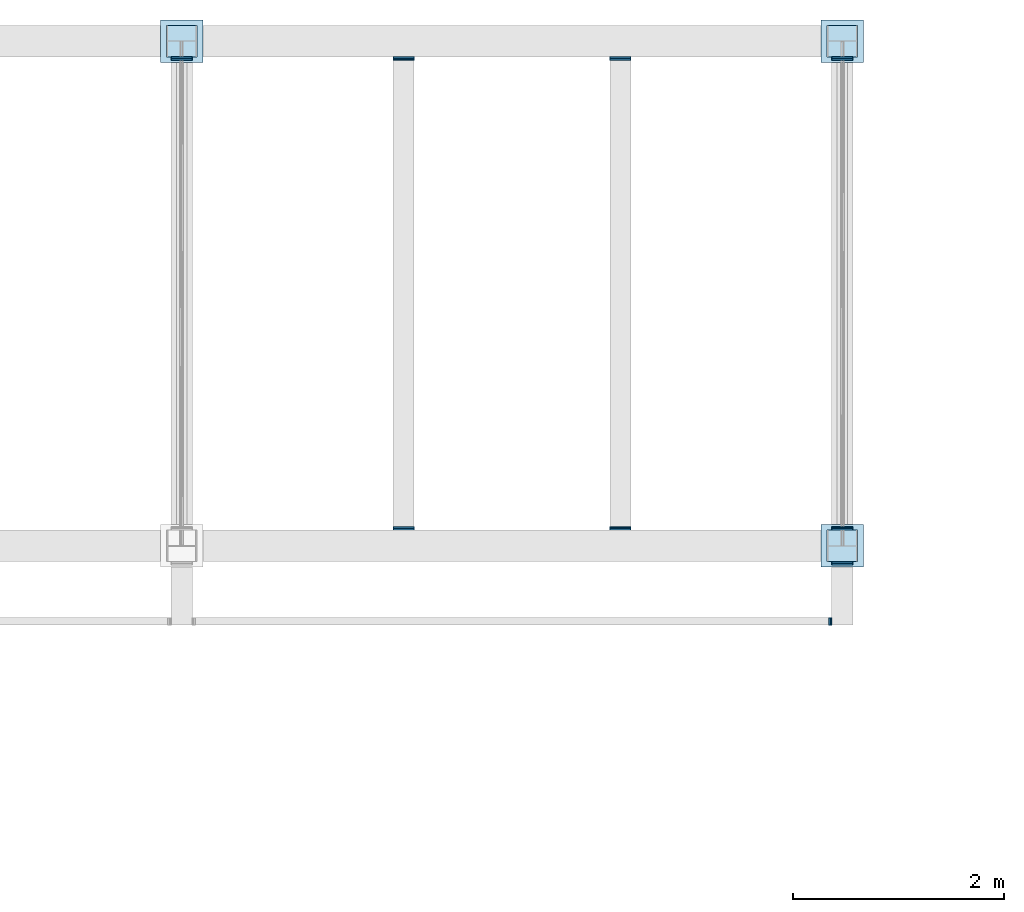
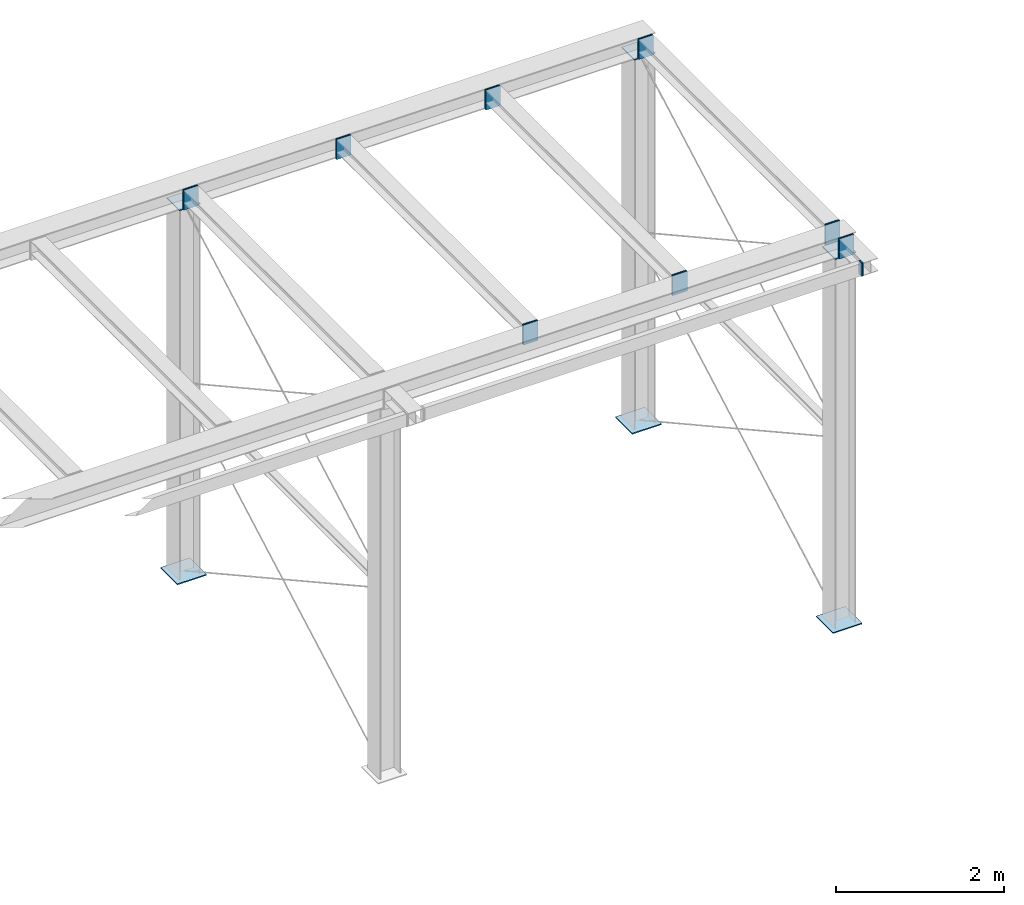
# One storey, part 21 of 24: 24 plates.
"""IFC2X3 building model written with IfcOpenShell, lengths in metres."""

from ifc_helpers import new_model, entity, si_unit, converted_unit, derived_unit, frame, origin, place, context, subcontext, project, spatial, faceted_brep, material, element, save


model = new_model("IFC2X3")

# Units and contexts
model_context = context("Model", 3, precision=1e-05, world=origin())
body_context = subcontext(model_context, "Body", "Model", "MODEL_VIEW")
ifc_project = project(units=[si_unit("LENGTHUNIT", "METRE"), si_unit("AREAUNIT", "SQUARE_METRE"), si_unit("VOLUMEUNIT", "CUBIC_METRE"), si_unit("MASSUNIT", "GRAM", prefix="KILO"), converted_unit("PLANEANGLEUNIT", "DEGREE", entity("IfcPlaneAngleMeasure", 0.0174532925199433), si_unit("PLANEANGLEUNIT", "RADIAN"), dimensions=[0, 0, 0, 0, 0, 0, 0]), derived_unit("THERMALTRANSMITTANCEUNIT", [(si_unit("POWERUNIT", "WATT"), 1), (si_unit("THERMODYNAMICTEMPERATUREUNIT", "KELVIN"), -1), (si_unit("LENGTHUNIT", "METRE"), -2)]), derived_unit("VOLUMETRICFLOWRATEUNIT", [(si_unit("LENGTHUNIT", "METRE"), 3), (converted_unit("TIMEUNIT", "hour", entity("IfcTimeMeasure", 3600.0), si_unit("TIMEUNIT", "SECOND"), dimensions=[0, 0, 1, 0, 0, 0, 0]), -1), (si_unit("LENGTHUNIT", "METRE"), -1)])], contexts=[model_context])

# Site, building, storey
site_placement = place(None, origin())
site = spatial("IfcSite", under=ifc_project, at=site_placement, Name="TWP_Speiseverteilzentrum SBW VZ II", CompositionType="ELEMENT")
building_placement = place(site_placement, origin())
building = spatial("IfcBuilding", under=site, at=building_placement, Name="Speiseverteilzentrum SBW VZ II", CompositionType="ELEMENT")
storey_placement = place(building_placement, frame((0.0, 0.0, 0.6957)))
storey = spatial("IfcBuildingStorey", under=building, at=storey_placement, Name="EG_Technik_FFB", CompositionType="ELEMENT", Elevation=0.6957)

# Plates
ifc_material_1 = material(Name="S235")
plate_1_placement = place(storey_placement, frame((109.8, 92.0499999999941, 0.649699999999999)))
element("IfcPlate", 1, at=plate_1_placement, inside=storey, material=ifc_material_1, Name="Fußplatte", ObjectType="PLATE", context=body_context, shape_type="Brep", body=[
    faceted_brep([(0.0, 0.4, 0.0), (0.0, 0.4, 0.015), (0.4, 0.4, 0.015), (0.4, 0.4, 0.0), (0.0, 0.0, 0.0), (0.0, 0.0, 0.015), (0.4, 0.0, 0.0), (0.4, 0.0, 0.015)], [[[0, 1, 2, 3]], [[0, 4, 5, 1]], [[4, 6, 7, 5]], [[6, 3, 2, 7]], [[6, 4, 0, 3]], [[2, 1, 5, 7]]], orient=[[False], [False], [False], [False], [False], [False]]),
])
ifc_material_2 = material(Name="S235")
plate_2_placement = place(storey_placement, frame((109.8, 87.2749999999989, 0.649699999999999)))
element("IfcPlate", 2, at=plate_2_placement, inside=storey, material=ifc_material_2, Name="Fußplatte", ObjectType="PLATE", context=body_context, shape_type="Brep", body=[
    faceted_brep([(0.0, 0.4, 0.0), (0.0, 0.4, 0.015), (0.4, 0.4, 0.015), (0.4, 0.4, 0.0), (0.0, 0.0, 0.0), (0.0, 0.0, 0.015), (0.4, 0.0, 0.0), (0.4, 0.0, 0.015)], [[[0, 1, 2, 3]], [[0, 4, 5, 1]], [[4, 6, 7, 5]], [[6, 3, 2, 7]], [[6, 4, 0, 3]], [[2, 1, 5, 7]]], orient=[[False], [False], [False], [False], [False], [False]]),
])
ifc_material_3 = material(Name="S235")
plate_3_placement = place(storey_placement, frame((109.855, 92.0999999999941, 6.03)))
element("IfcPlate", 3, at=plate_3_placement, inside=storey, material=ifc_material_3, Name="Kopfplatte", ObjectType="PLATE", context=body_context, shape_type="Brep", body=[
    faceted_brep([(0.29, 0.0, 0.015), (0.29, 0.0, 0.0), (0.29, 0.3, 0.0), (0.29, 0.3, 0.015), (0.0, 0.0, 0.015), (0.0, 0.0, 0.0), (0.0, 0.3, 0.015), (0.0, 0.3, 0.0)], [[[0, 1, 2, 3]], [[0, 4, 5, 1]], [[4, 6, 7, 5]], [[6, 3, 2, 7]], [[6, 4, 0, 3]], [[2, 1, 5, 7]]], orient=[[False], [False], [False], [False], [False], [False]]),
])
ifc_material_4 = material(Name="S235")
plate_4_placement = place(storey_placement, frame((109.855, 87.3249999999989, 6.03)))
element("IfcPlate", 4, at=plate_4_placement, inside=storey, material=ifc_material_4, Name="Kopfplatte", ObjectType="PLATE", context=body_context, shape_type="Brep", body=[
    faceted_brep([(0.29, 0.0, 0.015), (0.29, 0.0, 0.0), (0.29, 0.3, 0.0), (0.29, 0.3, 0.015), (0.0, 0.0, 0.015), (0.0, 0.0, 0.0), (0.0, 0.3, 0.015), (0.0, 0.3, 0.0)], [[[0, 1, 2, 3]], [[0, 4, 5, 1]], [[4, 6, 7, 5]], [[6, 3, 2, 7]], [[6, 4, 0, 3]], [[2, 1, 5, 7]]], orient=[[False], [False], [False], [False], [False], [False]]),
])
ifc_material_5 = material(Name="S235")
plate_5_placement = place(storey_placement, frame((109.9, 87.6399999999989, 6.045)))
element("IfcPlate", 5, at=plate_5_placement, inside=storey, material=ifc_material_5, Name="Stirnplatte", context=body_context, shape_type="Brep", body=[
    faceted_brep([(0.2, 0.015, 0.0), (0.2, 0.0, 0.0), (0.2, 0.0, 0.29), (0.2, 0.015, 0.29), (0.0, 0.015, 0.0), (0.0, 0.0, 0.0), (0.0, 0.015, 0.29), (0.0, 0.0, 0.29)], [[[0, 1, 2, 3]], [[0, 4, 5, 1]], [[4, 6, 7, 5]], [[6, 3, 2, 7]], [[6, 4, 0, 3]], [[2, 1, 5, 7]]], orient=[[False], [False], [False], [False], [False], [False]]),
])
ifc_material_6 = material(Name="S235")
plate_6_placement = place(storey_placement, frame((109.9, 87.6249999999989, 6.045)))
element("IfcPlate", 6, at=plate_6_placement, inside=storey, material=ifc_material_6, Name="Stirnplatte", context=body_context, shape_type="Brep", body=[
    faceted_brep([(0.2, 0.015, 0.0), (0.2, 0.0, 0.0), (0.2, 0.0, 0.29), (0.2, 0.015, 0.29), (0.0, 0.015, 0.0), (0.0, 0.0, 0.0), (0.0, 0.015, 0.29), (0.0, 0.0, 0.29)], [[[0, 1, 2, 3]], [[0, 4, 5, 1]], [[4, 6, 7, 5]], [[6, 3, 2, 7]], [[6, 4, 0, 3]], [[2, 1, 5, 7]]], orient=[[False], [False], [False], [False], [False], [False]]),
])
ifc_material_7 = material(Name="S235")
plate_7_placement = place(storey_placement, frame((109.9, 92.0849999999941, 6.045)))
element("IfcPlate", 7, at=plate_7_placement, inside=storey, material=ifc_material_7, Name="Stirnplatte", context=body_context, shape_type="Brep", body=[
    faceted_brep([(0.2, 0.015, 0.0), (0.2, 0.0, 0.0), (0.2, 0.0, 0.29), (0.2, 0.015, 0.29), (0.0, 0.015, 0.0), (0.0, 0.0, 0.0), (0.0, 0.015, 0.29), (0.0, 0.0, 0.29)], [[[0, 1, 2, 3]], [[0, 4, 5, 1]], [[4, 6, 7, 5]], [[6, 3, 2, 7]], [[6, 4, 0, 3]], [[2, 1, 5, 7]]], orient=[[False], [False], [False], [False], [False], [False]]),
])
ifc_material_8 = material(Name="S235")
plate_8_placement = place(storey_placement, frame((109.9, 92.0699999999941, 6.045)))
element("IfcPlate", 8, at=plate_8_placement, inside=storey, material=ifc_material_8, Name="Stirnplatte", context=body_context, shape_type="Brep", body=[
    faceted_brep([(0.2, 0.015, 0.0), (0.2, 0.0, 0.0), (0.2, 0.0, 0.29), (0.2, 0.015, 0.29), (0.0, 0.015, 0.0), (0.0, 0.0, 0.0), (0.0, 0.015, 0.29), (0.0, 0.0, 0.29)], [[[0, 1, 2, 3]], [[0, 4, 5, 1]], [[4, 6, 7, 5]], [[6, 3, 2, 7]], [[6, 4, 0, 3]], [[2, 1, 5, 7]]], orient=[[False], [False], [False], [False], [False], [False]]),
])
ifc_material_9 = material(Name="S235")
plate_9_placement = place(storey_placement, frame((103.55, 92.0499999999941, 0.649699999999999)))
element("IfcPlate", 9, at=plate_9_placement, inside=storey, material=ifc_material_9, Name="Fußplatte", ObjectType="PLATE", context=body_context, shape_type="Brep", body=[
    faceted_brep([(0.0, 0.4, 0.0), (0.0, 0.4, 0.015), (0.4, 0.4, 0.015), (0.4, 0.4, 0.0), (0.0, 0.0, 0.0), (0.0, 0.0, 0.015), (0.4, 0.0, 0.0), (0.4, 0.0, 0.015)], [[[0, 1, 2, 3]], [[0, 4, 5, 1]], [[4, 6, 7, 5]], [[6, 3, 2, 7]], [[6, 4, 0, 3]], [[2, 1, 5, 7]]], orient=[[False], [False], [False], [False], [False], [False]]),
])
ifc_material_10 = material(Name="S235")
plate_10_placement = place(storey_placement, frame((103.605, 92.0999999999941, 6.03)))
element("IfcPlate", 10, at=plate_10_placement, inside=storey, material=ifc_material_10, Name="Kopfplatte", ObjectType="PLATE", context=body_context, shape_type="Brep", body=[
    faceted_brep([(0.29, 0.0, 0.015), (0.29, 0.0, 0.0), (0.29, 0.3, 0.0), (0.29, 0.3, 0.015), (0.0, 0.0, 0.015), (0.0, 0.0, 0.0), (0.0, 0.3, 0.015), (0.0, 0.3, 0.0)], [[[0, 1, 2, 3]], [[0, 4, 5, 1]], [[4, 6, 7, 5]], [[6, 3, 2, 7]], [[6, 4, 0, 3]], [[2, 1, 5, 7]]], orient=[[False], [False], [False], [False], [False], [False]]),
])
ifc_material_11 = material(Name="S235")
plate_11_placement = place(storey_placement, frame((103.65, 92.0849999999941, 6.045)))
element("IfcPlate", 11, at=plate_11_placement, inside=storey, material=ifc_material_11, Name="Stirnplatte", context=body_context, shape_type="Brep", body=[
    faceted_brep([(0.2, 0.015, 0.0), (0.2, 0.0, 0.0), (0.2, 0.0, 0.29), (0.2, 0.015, 0.29), (0.0, 0.015, 0.0), (0.0, 0.0, 0.0), (0.0, 0.015, 0.29), (0.0, 0.0, 0.29)], [[[0, 1, 2, 3]], [[0, 4, 5, 1]], [[4, 6, 7, 5]], [[6, 3, 2, 7]], [[6, 4, 0, 3]], [[2, 1, 5, 7]]], orient=[[False], [False], [False], [False], [False], [False]]),
])
ifc_material_12 = material(Name="S235")
plate_12_placement = place(storey_placement, frame((103.65, 92.0699999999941, 6.045)))
element("IfcPlate", 12, at=plate_12_placement, inside=storey, material=ifc_material_12, Name="Stirnplatte", context=body_context, shape_type="Brep", body=[
    faceted_brep([(0.2, 0.015, 0.0), (0.2, 0.0, 0.0), (0.2, 0.0, 0.29), (0.2, 0.015, 0.29), (0.0, 0.015, 0.0), (0.0, 0.0, 0.0), (0.0, 0.015, 0.29), (0.0, 0.0, 0.29)], [[[0, 1, 2, 3]], [[0, 4, 5, 1]], [[4, 6, 7, 5]], [[6, 3, 2, 7]], [[6, 4, 0, 3]], [[2, 1, 5, 7]]], orient=[[False], [False], [False], [False], [False], [False]]),
])
ifc_material_13 = material(Name="S235")
plate_13_placement = place(storey_placement, frame((109.9, 87.3099999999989, 6.045)))
element("IfcPlate", 13, at=plate_13_placement, inside=storey, material=ifc_material_13, Name="Kragarm", ObjectType="PLATE", context=body_context, shape_type="Brep", body=[
    faceted_brep([(0.0, 0.0, 0.0), (0.0, 0.015, 0.0), (0.0, 0.015, 0.29), (0.0, 0.0, 0.29), (0.2, 0.0, 0.0), (0.2, 0.015, 0.0), (0.2, 0.0, 0.29), (0.2, 0.015, 0.29)], [[[0, 1, 2, 3]], [[0, 4, 5, 1]], [[4, 6, 7, 5]], [[6, 3, 2, 7]], [[6, 4, 0, 3]], [[2, 1, 5, 7]]], orient=[[False], [False], [False], [False], [False], [False]]),
])
ifc_material_14 = material(Name="S235")
plate_14_placement = place(storey_placement, frame((109.9, 87.2949999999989, 6.045)))
element("IfcPlate", 14, at=plate_14_placement, inside=storey, material=ifc_material_14, Name="Kragarm", ObjectType="PLATE", context=body_context, shape_type="Brep", body=[
    faceted_brep([(0.0, 0.0, 0.0), (0.0, 0.015, 0.0), (0.0, 0.015, 0.29), (0.0, 0.0, 0.29), (0.2, 0.0, 0.0), (0.2, 0.015, 0.0), (0.2, 0.0, 0.29), (0.2, 0.015, 0.29)], [[[0, 1, 2, 3]], [[0, 4, 5, 1]], [[4, 6, 7, 5]], [[6, 3, 2, 7]], [[6, 4, 0, 3]], [[2, 1, 5, 7]]], orient=[[False], [False], [False], [False], [False], [False]]),
])
ifc_material_15 = material(Name="S235")
plate_15_placement = place(storey_placement, frame((109.885, 86.7249999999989, 6.145)))
element("IfcPlate", 15, at=plate_15_placement, inside=storey, material=ifc_material_15, Name="Stirnplatte", ObjectType="PLATE", context=body_context, shape_type="Brep", body=[
    faceted_brep([(0.0, 0.07, 0.0), (0.015, 0.07, 0.0), (0.015, 0.07, 0.19), (0.0, 0.07, 0.19), (0.0, 0.0, 0.0), (0.015, 0.0, 0.0), (0.0, 0.0, 0.19), (0.015, 0.0, 0.19)], [[[0, 1, 2, 3]], [[0, 4, 5, 1]], [[4, 6, 7, 5]], [[6, 3, 2, 7]], [[6, 4, 0, 3]], [[2, 1, 5, 7]]], orient=[[False], [False], [False], [False], [False], [False]]),
])
ifc_material_16 = material(Name="S235")
plate_16_placement = place(storey_placement, frame((109.87, 86.7249999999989, 6.145)))
element("IfcPlate", 16, at=plate_16_placement, inside=storey, material=ifc_material_16, Name="Stirnplatte", ObjectType="PLATE", context=body_context, shape_type="Brep", body=[
    faceted_brep([(0.0, 0.07, 0.0), (0.015, 0.07, 0.0), (0.015, 0.07, 0.19), (0.0, 0.07, 0.19), (0.0, 0.0, 0.0), (0.015, 0.0, 0.0), (0.0, 0.0, 0.19), (0.015, 0.0, 0.19)], [[[0, 1, 2, 3]], [[0, 4, 5, 1]], [[4, 6, 7, 5]], [[6, 3, 2, 7]], [[6, 4, 0, 3]], [[2, 1, 5, 7]]], orient=[[False], [False], [False], [False], [False], [False]]),
])
ifc_material_17 = material(Name="S235")
plate_17_placement = place(storey_placement, frame((107.8, 87.6399999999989, 6.045)))
element("IfcPlate", 17, at=plate_17_placement, inside=storey, material=ifc_material_17, Name="Stirnplatte", ObjectType="PLATE", context=body_context, shape_type="Brep", body=[
    faceted_brep([(0.0, 0.0, 0.0), (0.0, 0.015, 0.0), (0.0, 0.015, 0.29), (0.0, 0.0, 0.29), (0.2, 0.0, 0.0), (0.2, 0.015, 0.0), (0.2, 0.0, 0.29), (0.2, 0.015, 0.29)], [[[0, 1, 2, 3]], [[0, 4, 5, 1]], [[4, 6, 7, 5]], [[6, 3, 2, 7]], [[6, 4, 0, 3]], [[2, 1, 5, 7]]], orient=[[False], [False], [False], [False], [False], [False]]),
])
ifc_material_18 = material(Name="S235")
plate_18_placement = place(storey_placement, frame((107.8, 87.6249999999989, 6.045)))
element("IfcPlate", 18, at=plate_18_placement, inside=storey, material=ifc_material_18, Name="Stirnplatte", ObjectType="PLATE", context=body_context, shape_type="Brep", body=[
    faceted_brep([(0.0, 0.0, 0.0), (0.0, 0.015, 0.0), (0.0, 0.015, 0.29), (0.0, 0.0, 0.29), (0.2, 0.0, 0.0), (0.2, 0.015, 0.0), (0.2, 0.0, 0.29), (0.2, 0.015, 0.29)], [[[0, 1, 2, 3]], [[0, 4, 5, 1]], [[4, 6, 7, 5]], [[6, 3, 2, 7]], [[6, 4, 0, 3]], [[2, 1, 5, 7]]], orient=[[False], [False], [False], [False], [False], [False]]),
])
ifc_material_19 = material(Name="S235")
plate_19_placement = place(storey_placement, frame((107.8, 92.0849999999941, 6.045)))
element("IfcPlate", 19, at=plate_19_placement, inside=storey, material=ifc_material_19, Name="Stirnplatte", ObjectType="PLATE", context=body_context, shape_type="Brep", body=[
    faceted_brep([(0.0, 0.0, 0.0), (0.0, 0.015, 0.0), (0.0, 0.015, 0.29), (0.0, 0.0, 0.29), (0.2, 0.0, 0.0), (0.2, 0.015, 0.0), (0.2, 0.0, 0.29), (0.2, 0.015, 0.29)], [[[0, 1, 2, 3]], [[0, 4, 5, 1]], [[4, 6, 7, 5]], [[6, 3, 2, 7]], [[6, 4, 0, 3]], [[2, 1, 5, 7]]], orient=[[False], [False], [False], [False], [False], [False]]),
])
ifc_material_20 = material(Name="S235")
plate_20_placement = place(storey_placement, frame((107.8, 92.0699999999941, 6.045)))
element("IfcPlate", 20, at=plate_20_placement, inside=storey, material=ifc_material_20, Name="Stirnplatte", ObjectType="PLATE", context=body_context, shape_type="Brep", body=[
    faceted_brep([(0.0, 0.0, 0.0), (0.0, 0.015, 0.0), (0.0, 0.015, 0.29), (0.0, 0.0, 0.29), (0.2, 0.0, 0.0), (0.2, 0.015, 0.0), (0.2, 0.0, 0.29), (0.2, 0.015, 0.29)], [[[0, 1, 2, 3]], [[0, 4, 5, 1]], [[4, 6, 7, 5]], [[6, 3, 2, 7]], [[6, 4, 0, 3]], [[2, 1, 5, 7]]], orient=[[False], [False], [False], [False], [False], [False]]),
])
ifc_material_21 = material(Name="S235")
plate_21_placement = place(storey_placement, frame((105.75, 87.6399999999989, 6.045)))
element("IfcPlate", 21, at=plate_21_placement, inside=storey, material=ifc_material_21, Name="Stirnplatte", ObjectType="PLATE", context=body_context, shape_type="Brep", body=[
    faceted_brep([(0.0, 0.0, 0.0), (0.0, 0.015, 0.0), (0.0, 0.015, 0.29), (0.0, 0.0, 0.29), (0.2, 0.0, 0.0), (0.2, 0.015, 0.0), (0.2, 0.0, 0.29), (0.2, 0.015, 0.29)], [[[0, 1, 2, 3]], [[0, 4, 5, 1]], [[4, 6, 7, 5]], [[6, 3, 2, 7]], [[6, 4, 0, 3]], [[2, 1, 5, 7]]], orient=[[False], [False], [False], [False], [False], [False]]),
])
ifc_material_22 = material(Name="S235")
plate_22_placement = place(storey_placement, frame((105.75, 87.6249999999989, 6.045)))
element("IfcPlate", 22, at=plate_22_placement, inside=storey, material=ifc_material_22, Name="Stirnplatte", ObjectType="PLATE", context=body_context, shape_type="Brep", body=[
    faceted_brep([(0.0, 0.0, 0.0), (0.0, 0.015, 0.0), (0.0, 0.015, 0.29), (0.0, 0.0, 0.29), (0.2, 0.0, 0.0), (0.2, 0.015, 0.0), (0.2, 0.0, 0.29), (0.2, 0.015, 0.29)], [[[0, 1, 2, 3]], [[0, 4, 5, 1]], [[4, 6, 7, 5]], [[6, 3, 2, 7]], [[6, 4, 0, 3]], [[2, 1, 5, 7]]], orient=[[False], [False], [False], [False], [False], [False]]),
])
ifc_material_23 = material(Name="S235")
plate_23_placement = place(storey_placement, frame((105.75, 92.0849999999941, 6.045)))
element("IfcPlate", 23, at=plate_23_placement, inside=storey, material=ifc_material_23, Name="Stirnplatte", ObjectType="PLATE", context=body_context, shape_type="Brep", body=[
    faceted_brep([(0.0, 0.0, 0.0), (0.0, 0.015, 0.0), (0.0, 0.015, 0.29), (0.0, 0.0, 0.29), (0.2, 0.0, 0.0), (0.2, 0.015, 0.0), (0.2, 0.0, 0.29), (0.2, 0.015, 0.29)], [[[0, 1, 2, 3]], [[0, 4, 5, 1]], [[4, 6, 7, 5]], [[6, 3, 2, 7]], [[6, 4, 0, 3]], [[2, 1, 5, 7]]], orient=[[False], [False], [False], [False], [False], [False]]),
])
ifc_material_24 = material(Name="S235")
plate_24_placement = place(storey_placement, frame((105.75, 92.0699999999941, 6.045)))
element("IfcPlate", 24, at=plate_24_placement, inside=storey, material=ifc_material_24, Name="Stirnplatte", ObjectType="PLATE", context=body_context, shape_type="Brep", body=[
    faceted_brep([(0.0, 0.0, 0.0), (0.0, 0.015, 0.0), (0.0, 0.015, 0.29), (0.0, 0.0, 0.29), (0.2, 0.0, 0.0), (0.2, 0.015, 0.0), (0.2, 0.0, 0.29), (0.2, 0.015, 0.29)], [[[0, 1, 2, 3]], [[0, 4, 5, 1]], [[4, 6, 7, 5]], [[6, 3, 2, 7]], [[6, 4, 0, 3]], [[2, 1, 5, 7]]], orient=[[False], [False], [False], [False], [False], [False]]),
])

save(model, "model.ifc")
